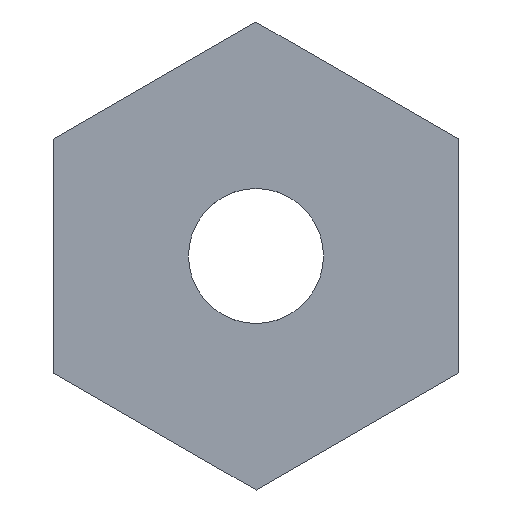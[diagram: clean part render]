
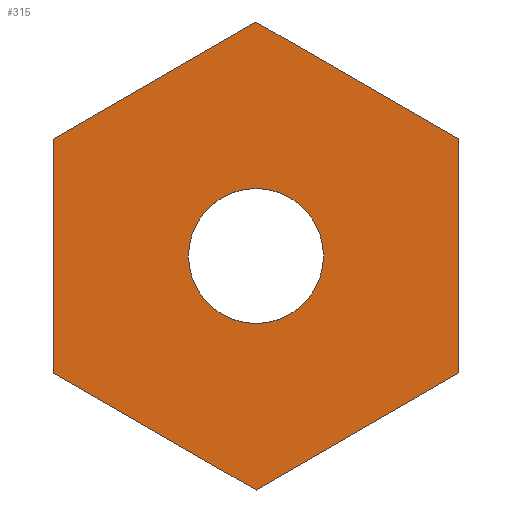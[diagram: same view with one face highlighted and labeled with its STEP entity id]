
A CAD part, front view. The second image highlights one B-rep face of the part: STEP entity #315.
In plain terms, the highlighted planar face has unit normal (0, -1, 0).
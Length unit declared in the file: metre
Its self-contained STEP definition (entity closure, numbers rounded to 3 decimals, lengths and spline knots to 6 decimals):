
#28=CIRCLE('',#355,0.002);
#81=ORIENTED_EDGE('',*,*,#141,.F.);
#82=ORIENTED_EDGE('',*,*,#126,.F.);
#83=ORIENTED_EDGE('',*,*,#138,.F.);
#84=ORIENTED_EDGE('',*,*,#135,.F.);
#85=ORIENTED_EDGE('',*,*,#133,.F.);
#86=ORIENTED_EDGE('',*,*,#131,.F.);
#87=ORIENTED_EDGE('',*,*,#129,.F.);
#126=EDGE_CURVE('',#161,#162,#187,.T.);
#129=EDGE_CURVE('',#162,#163,#190,.T.);
#131=EDGE_CURVE('',#163,#164,#192,.T.);
#133=EDGE_CURVE('',#164,#165,#194,.T.);
#135=EDGE_CURVE('',#165,#166,#196,.T.);
#138=EDGE_CURVE('',#166,#161,#199,.T.);
#141=EDGE_CURVE('',#168,#168,#28,.T.);
#161=VERTEX_POINT('',#489);
#162=VERTEX_POINT('',#490);
#163=VERTEX_POINT('',#495);
#164=VERTEX_POINT('',#499);
#165=VERTEX_POINT('',#503);
#166=VERTEX_POINT('',#507);
#168=VERTEX_POINT('',#518);
#187=LINE('',#488,#211);
#190=LINE('',#494,#214);
#192=LINE('',#498,#216);
#194=LINE('',#502,#218);
#196=LINE('',#506,#220);
#199=LINE('',#512,#223);
#211=VECTOR('',#401,1.);
#214=VECTOR('',#406,1.);
#216=VECTOR('',#410,1.);
#218=VECTOR('',#414,1.);
#220=VECTOR('',#418,1.);
#223=VECTOR('',#423,1.);
#237=EDGE_LOOP('',(#81));
#238=EDGE_LOOP('',(#82,#83,#84,#85,#86,#87));
#269=FACE_BOUND('',#237,.T.);
#270=FACE_BOUND('',#238,.T.);
#301=PLANE('',#354);
#315=ADVANCED_FACE('',(#269,#270),#301,.F.);
#354=AXIS2_PLACEMENT_3D('',#516,#429,#430);
#355=AXIS2_PLACEMENT_3D('',#517,#431,#432);
#401=DIRECTION('',(0.,0.,-1.));
#406=DIRECTION('',(-0.866,0.,-0.5));
#410=DIRECTION('',(-0.866,0.,0.5));
#414=DIRECTION('',(0.,0.,1.));
#418=DIRECTION('',(0.866,0.,0.5));
#423=DIRECTION('',(0.866,0.,-0.5));
#429=DIRECTION('',(0.,1.,0.));
#430=DIRECTION('',(0.,0.,1.));
#431=DIRECTION('',(0.,-1.,0.));
#432=DIRECTION('',(0.,0.,-1.));
#488=CARTESIAN_POINT('',(0.005999,0.,0.003466));
#489=CARTESIAN_POINT('',(0.005999,0.,0.003466));
#490=CARTESIAN_POINT('',(0.006001,0.,-0.003462));
#494=CARTESIAN_POINT('',(0.006001,0.,-0.003462));
#495=CARTESIAN_POINT('',(0.000002,0.,-0.006928));
#498=CARTESIAN_POINT('',(0.000002,0.,-0.006928));
#499=CARTESIAN_POINT('',(-0.005999,0.,-0.003466));
#502=CARTESIAN_POINT('',(-0.005999,0.,-0.003466));
#503=CARTESIAN_POINT('',(-0.006001,0.,0.003462));
#506=CARTESIAN_POINT('',(-0.006001,0.,0.003462));
#507=CARTESIAN_POINT('',(-0.000002,0.,0.006928));
#512=CARTESIAN_POINT('',(-0.000002,0.,0.006928));
#516=CARTESIAN_POINT('',(0.,0.,0.));
#517=CARTESIAN_POINT('',(0.,0.,0.));
#518=CARTESIAN_POINT('',(0.,0.,-0.002));
